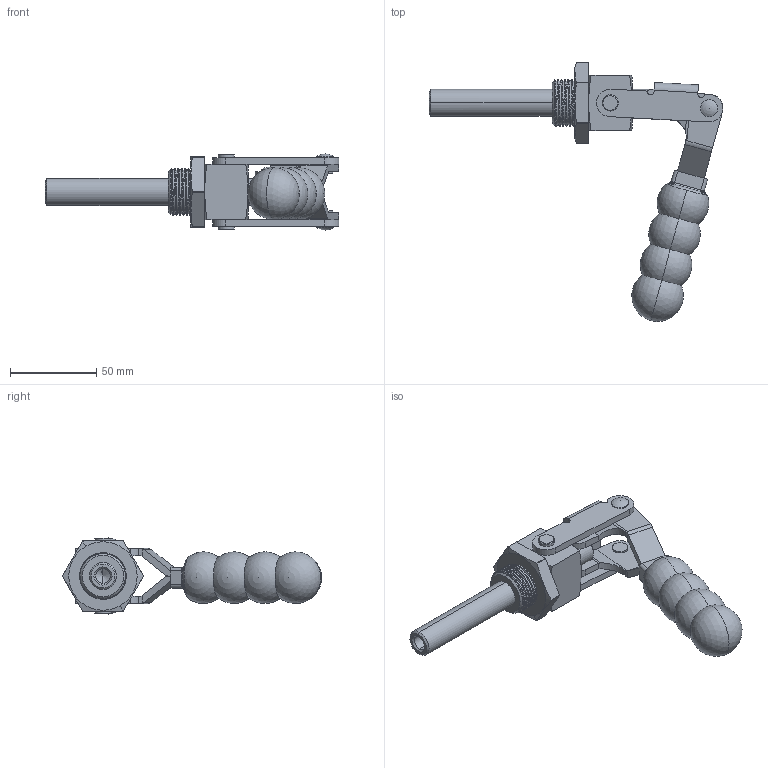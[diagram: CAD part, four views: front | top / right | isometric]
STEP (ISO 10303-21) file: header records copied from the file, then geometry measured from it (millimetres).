
FILE_DESCRIPTION (( 'STEP AP214' ), '1' );
FILE_NAME ('ISK-FM2500.STEP', '2015-08-19T12:02:05', ( '' ), ( '' ), 'SwSTEP 2.0', 'SolidWorks 2015', '' );
FILE_SCHEMA (( 'AUTOMOTIVE_DESIGN' ));
Length unit declared in the file: millimetre
Products named in the file (10): Grip; Rivet_Φ6×24; Rivet_Φ6×08; Rivet_Φ6×10; Nut_M27; Link; Handle; Arm; Guide; ISK-FM2500
Assembly tree (11 placements, depth 2):
  ISK-FM2500
    Guide
    Arm
    Handle
    Link
    Nut_M27
    Rivet_Φ6×10  x2
    Rivet_Φ6×08  x2
    Rivet_Φ6×24
    Grip
Bounding box: 170.68 x 150.58 x 44.2 mm (x, y, z)
Volume: 129904.4 mm3; surface area: 57646.8 mm2
Topology: 12 solids, 12 shells, 294 faces, 743 edges, 468 vertices
Faces by surface type: cylinder 127, plane 96, bspline 26, cone 20, torus 14, sphere 11
Entity records: 11925 total; most frequent: CARTESIAN_POINT 5156, ORIENTED_EDGE 1348, DIRECTION 1304, EDGE_CURVE 674, AXIS2_PLACEMENT_3D 510, VERTEX_POINT 426, EDGE_LOOP 304, VECTOR 284
